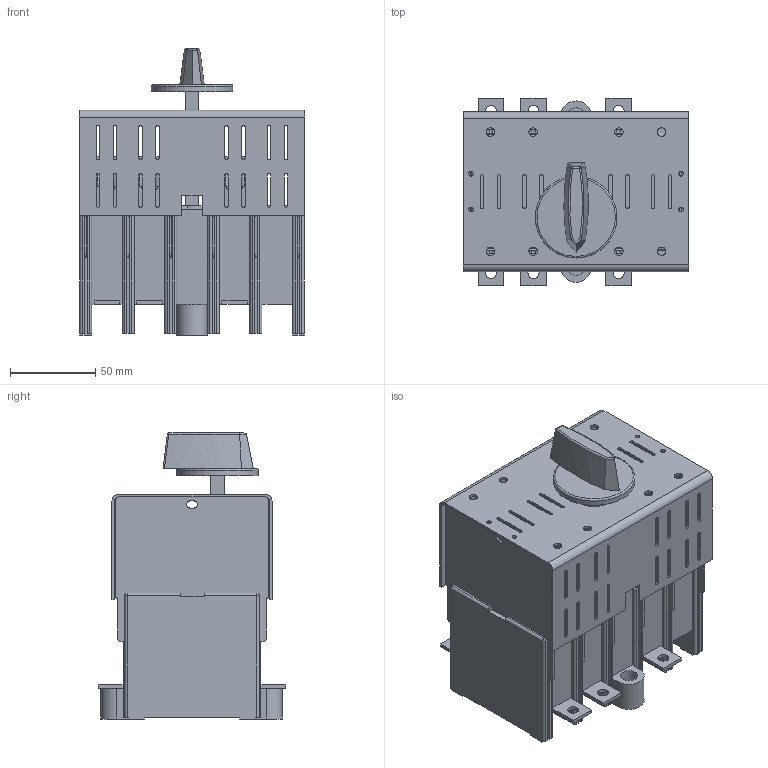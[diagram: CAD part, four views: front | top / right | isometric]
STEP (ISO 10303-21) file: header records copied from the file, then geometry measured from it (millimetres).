
FILE_DESCRIPTION(/* description */ (''),/* implementation_level */ '2;1');
FILE_NAME(/* name */ 'RAB 000 P3-R.stp',/* time_stamp */ '2021-08-19T09:43:36+02:00',/* author */ (''),/* organization */ (''),/* preprocessor_version */ 'ST-DEVELOPER v18.1',/* originating_system */ 'SIEMENS PLM Software NX 1965',/* authorisation */ '');
FILE_SCHEMA (('AUTOMOTIVE_DESIGN { 1 0 10303 214 3 1 1 1 }'));
Length unit declared in the file: millimetre
Products named in the file (1): RAB 000 P3-R_stp
Bounding box: 132.5 x 110 x 168 mm (x, y, z)
Volume: 754769.1 mm3; surface area: 213017.7 mm2
Topology: 1 solids, 1 shells, 1022 faces, 2891 edges, 1851 vertices
Faces by surface type: plane 654, cylinder 335, sphere 25, bspline 7, torus 1
Full cylindrical faces by diameter (mm): 2.7 x4, 5 x8, 5.8 x2, 6.5 x6, 10 x2, 20 x1, 48 x1
Entity records: 32974 total; most frequent: CARTESIAN_POINT 6188, ORIENTED_EDGE 5656, DIRECTION 5424, EDGE_CURVE 2828, LINE 2070, VECTOR 2070, VERTEX_POINT 1839, AXIS2_PLACEMENT_3D 1677
